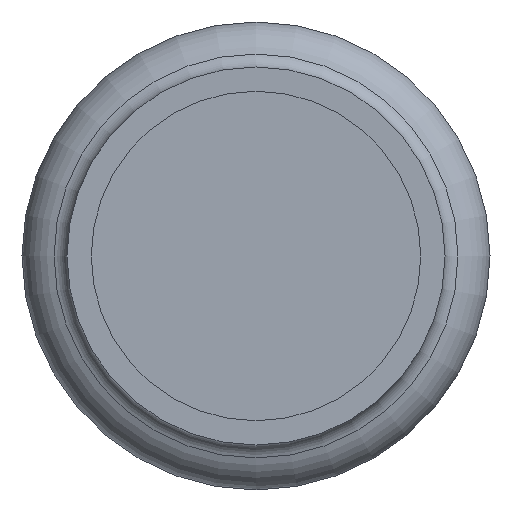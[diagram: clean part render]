
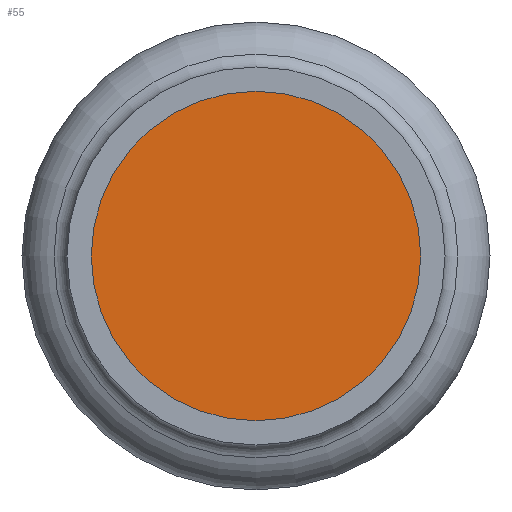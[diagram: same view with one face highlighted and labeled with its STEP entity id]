
A CAD part, front view. The second image highlights one B-rep face of the part: STEP entity #55.
In plain terms, the highlighted planar face has unit normal (0, -1, 0).
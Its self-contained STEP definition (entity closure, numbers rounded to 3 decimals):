
#55=ADVANCED_FACE('',(#92),#94,.T.);
#92=FACE_BOUND('',#93,.T.);
#93=EDGE_LOOP('',(#263));
#94=PLANE('',#95);
#95=AXIS2_PLACEMENT_3D('',#96,#97,#98);
#96=CARTESIAN_POINT('',(0.,7.146,0.));
#97=DIRECTION('',(0.,-1.,0.));
#98=DIRECTION('',(0.,0.,1.));
#263=ORIENTED_EDGE('',*,*,#301,.T.);
#301=EDGE_CURVE('',#323,#323,#324,.F.);
#323=VERTEX_POINT('',#369);
#324=CIRCLE('',#370,9.15);
#369=CARTESIAN_POINT('',(0.,7.146,9.15));
#370=AXIS2_PLACEMENT_3D('',#371,#372,#373);
#371=CARTESIAN_POINT('',(0.,7.146,0.));
#372=DIRECTION('',(0.,1.,0.));
#373=DIRECTION('',(0.,0.,1.));
